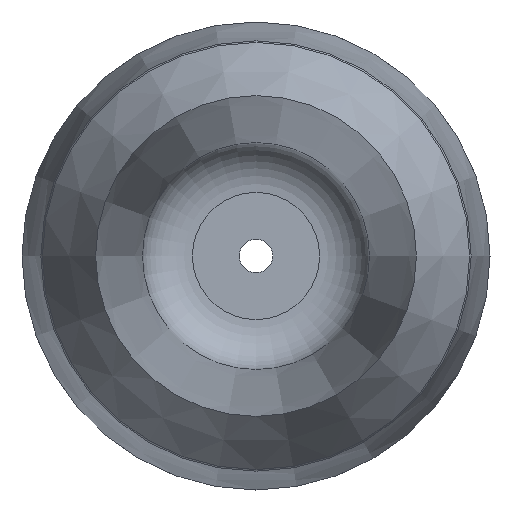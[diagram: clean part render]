
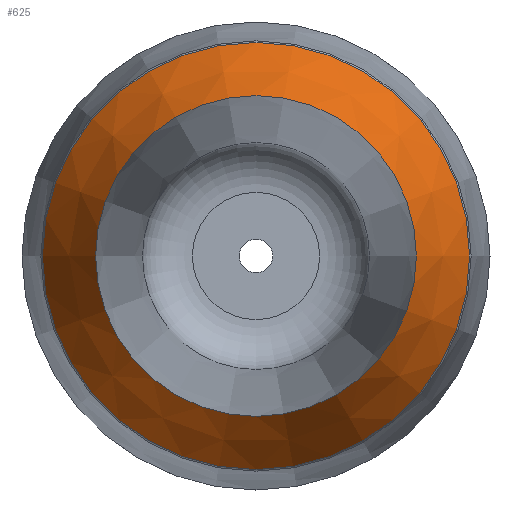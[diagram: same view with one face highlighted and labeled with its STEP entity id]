
A CAD part, front view. The second image highlights one B-rep face of the part: STEP entity #625.
In plain terms, the highlighted conical face has half-angle 28.4 degrees and reference radius 55.949 mm.
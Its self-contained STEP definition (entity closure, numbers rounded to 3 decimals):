
#21=CONICAL_SURFACE('',#728,55.948,0.496);
#64=FACE_OUTER_BOUND('',#97,.T.);
#97=EDGE_LOOP('',(#521,#522,#523,#524,#525,#526,#527));
#118=LINE('',#1158,#132);
#132=VECTOR('',#936,55.948);
#188=CIRCLE('',#726,48.);
#189=CIRCLE('',#727,48.);
#190=CIRCLE('',#729,63.897);
#191=CIRCLE('',#730,63.897);
#192=CIRCLE('',#731,63.897);
#268=VERTEX_POINT('',#1146);
#269=VERTEX_POINT('',#1148);
#270=VERTEX_POINT('',#1152);
#271=VERTEX_POINT('',#1153);
#272=VERTEX_POINT('',#1155);
#359=EDGE_CURVE('',#269,#268,#188,.T.);
#360=EDGE_CURVE('',#268,#269,#189,.T.);
#361=EDGE_CURVE('',#270,#271,#190,.T.);
#362=EDGE_CURVE('',#272,#270,#191,.T.);
#363=EDGE_CURVE('',#271,#272,#192,.T.);
#364=EDGE_CURVE('',#271,#268,#118,.T.);
#521=ORIENTED_EDGE('',*,*,#361,.F.);
#522=ORIENTED_EDGE('',*,*,#362,.F.);
#523=ORIENTED_EDGE('',*,*,#363,.F.);
#524=ORIENTED_EDGE('',*,*,#364,.T.);
#525=ORIENTED_EDGE('',*,*,#360,.T.);
#526=ORIENTED_EDGE('',*,*,#359,.T.);
#527=ORIENTED_EDGE('',*,*,#364,.F.);
#625=ADVANCED_FACE('',(#64),#21,.T.);
#726=AXIS2_PLACEMENT_3D('',#1149,#924,#925);
#727=AXIS2_PLACEMENT_3D('',#1150,#926,#927);
#728=AXIS2_PLACEMENT_3D('',#1151,#928,#929);
#729=AXIS2_PLACEMENT_3D('',#1154,#930,#931);
#730=AXIS2_PLACEMENT_3D('',#1156,#932,#933);
#731=AXIS2_PLACEMENT_3D('',#1157,#934,#935);
#924=DIRECTION('center_axis',(0.,1.,0.));
#925=DIRECTION('ref_axis',(1.,0.,0.));
#926=DIRECTION('center_axis',(0.,1.,0.));
#927=DIRECTION('ref_axis',(1.,0.,0.));
#928=DIRECTION('center_axis',(0.,1.,0.));
#929=DIRECTION('ref_axis',(-1.,0.,0.));
#930=DIRECTION('center_axis',(0.,1.,0.));
#931=DIRECTION('ref_axis',(1.,0.,0.));
#932=DIRECTION('center_axis',(0.,1.,0.));
#933=DIRECTION('ref_axis',(1.,0.,0.));
#934=DIRECTION('center_axis',(0.,1.,0.));
#935=DIRECTION('ref_axis',(1.,0.,0.));
#936=DIRECTION('',(-0.476,-0.88,0.));
#1146=CARTESIAN_POINT('',(48.,-319.,0.));
#1148=CARTESIAN_POINT('',(-48.,-319.,0.));
#1149=CARTESIAN_POINT('Origin',(0.,-319.,0.));
#1150=CARTESIAN_POINT('Origin',(0.,-319.,0.));
#1151=CARTESIAN_POINT('Origin',(0.,-304.3,0.));
#1152=CARTESIAN_POINT('',(-63.897,-289.599,0.));
#1153=CARTESIAN_POINT('',(63.897,-289.599,0.));
#1154=CARTESIAN_POINT('Origin',(0.,-289.599,0.));
#1155=CARTESIAN_POINT('',(0.,-289.599,-63.897));
#1156=CARTESIAN_POINT('Origin',(0.,-289.599,0.));
#1157=CARTESIAN_POINT('Origin',(0.,-289.599,0.));
#1158=CARTESIAN_POINT('',(55.948,-304.3,0.));
